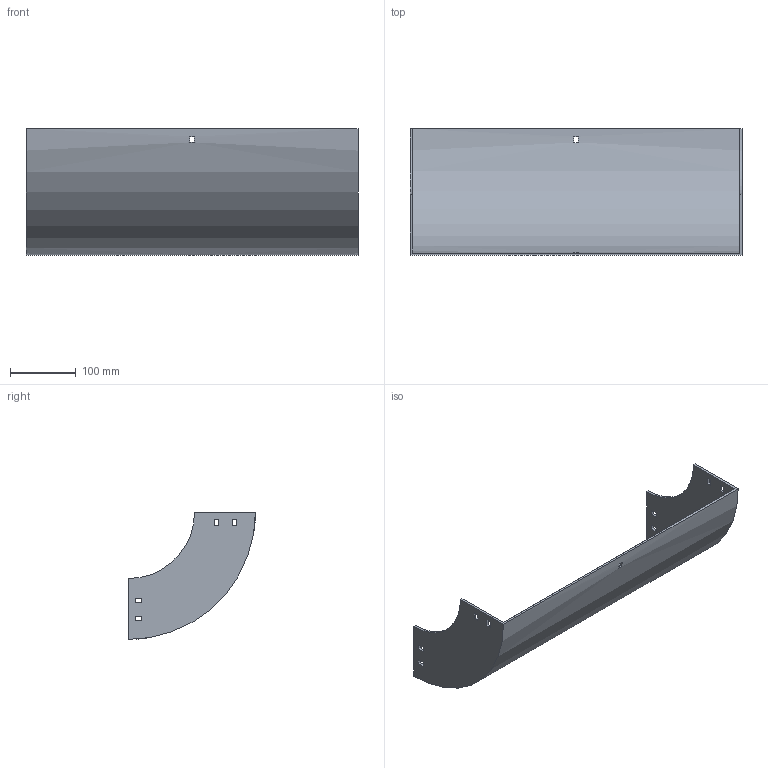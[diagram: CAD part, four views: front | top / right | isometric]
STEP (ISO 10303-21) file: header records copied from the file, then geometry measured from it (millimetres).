
FILE_DESCRIPTION (( 'STEP AP214' ), '1' );
FILE_NAME ('30B1I500.step', '2025-02-21T09:51:31', ( '' ), ( '' ), 'SwSTEP 2.0', 'SolidWorks 2023', '' );
FILE_SCHEMA (( 'AUTOMOTIVE_DESIGN' ));
Length unit declared in the file: millimetre
Products named in the file (1): 30B1I500
Bounding box: 504 x 192.5 x 192.5 mm (x, y, z)
Volume: 667583.8 mm3; surface area: 388539.1 mm2
Topology: 1 solids, 1 shells, 50 faces, 144 edges, 96 vertices
Faces by surface type: plane 46, cylinder 4
Entity records: 1687 total; most frequent: CARTESIAN_POINT 291, ORIENTED_EDGE 288, DIRECTION 262, EDGE_CURVE 144, VECTOR 128, LINE 128, VERTEX_POINT 96, EDGE_LOOP 70
